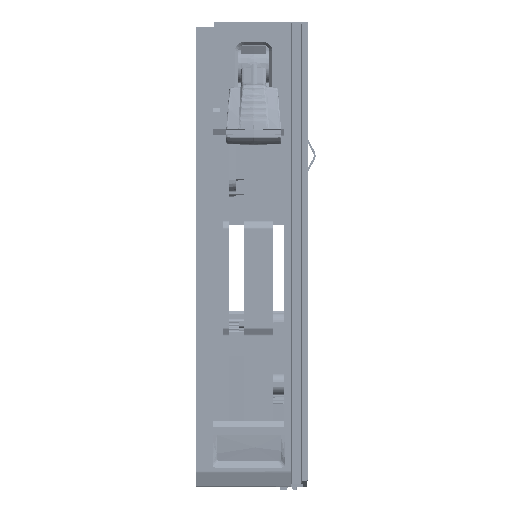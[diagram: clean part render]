
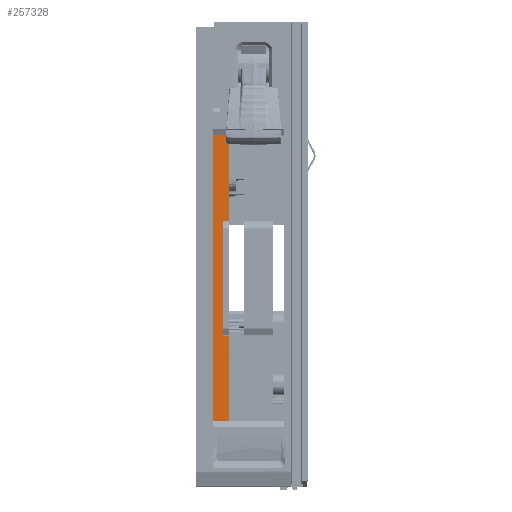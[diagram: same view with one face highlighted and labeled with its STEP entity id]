
A CAD part, top view. The second image highlights one B-rep face of the part: STEP entity #257328.
In plain terms, the highlighted planar face has unit normal (0, 0, 1).
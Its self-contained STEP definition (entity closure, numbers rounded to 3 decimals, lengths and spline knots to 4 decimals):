
#67568=DIRECTION('',(0.,1.,0.));
#67569=VECTOR('',#67568,0.5419);
#67570=CARTESIAN_POINT('',(1.061,0.3821,
4.3307));
#67571=LINE('',#67570,#67569);
#67600=DIRECTION('',(0.,1.,0.));
#67601=VECTOR('',#67600,0.5419);
#67602=CARTESIAN_POINT('',(1.061,1.6514,4.3307));
#67603=LINE('',#67602,#67601);
#67744=DIRECTION('',(-1.,0.,0.));
#67745=VECTOR('',#67744,0.1063);
#67746=CARTESIAN_POINT('',(1.061,2.1933,4.3307));
#67747=LINE('',#67746,#67745);
#67760=DIRECTION('',(0.,1.,0.));
#67761=VECTOR('',#67760,1.8111);
#67762=CARTESIAN_POINT('',(0.9547,0.3821,
4.3307));
#67763=LINE('',#67762,#67761);
#67764=DIRECTION('',(0.,-1.,0.));
#67765=VECTOR('',#67764,0.7274);
#67766=CARTESIAN_POINT('',(1.0217,1.6514,4.3307));
#67767=LINE('',#67766,#67765);
#67784=DIRECTION('',(1.,0.,0.));
#67785=VECTOR('',#67784,0.1063);
#67786=CARTESIAN_POINT('',(0.9547,0.3821,
4.3307));
#67787=LINE('',#67786,#67785);
#72384=DIRECTION('',(1.,0.,0.));
#72385=VECTOR('',#72384,0.0394);
#72386=CARTESIAN_POINT('',(1.0217,1.6514,4.3307));
#72387=LINE('',#72386,#72385);
#72440=DIRECTION('',(-1.,0.,0.));
#72441=VECTOR('',#72440,0.0394);
#72442=CARTESIAN_POINT('',(1.061,0.924,
4.3307));
#72443=LINE('',#72442,#72441);
#134807=CARTESIAN_POINT('',(1.061,0.3821,
4.3307));
#134808=VERTEX_POINT('',#134807);
#134809=CARTESIAN_POINT('',(1.061,0.924,
4.3307));
#134810=VERTEX_POINT('',#134809);
#134823=CARTESIAN_POINT('',(1.061,1.6514,
4.3307));
#134824=VERTEX_POINT('',#134823);
#134825=CARTESIAN_POINT('',(1.061,2.1933,
4.3307));
#134826=VERTEX_POINT('',#134825);
#134835=CARTESIAN_POINT('',(0.9547,0.3821,
4.3307));
#134836=VERTEX_POINT('',#134835);
#134837=CARTESIAN_POINT('',(0.9547,2.1933,
4.3307));
#134838=VERTEX_POINT('',#134837);
#134843=CARTESIAN_POINT('',(1.0217,1.6514,
4.3307));
#134844=VERTEX_POINT('',#134843);
#134845=CARTESIAN_POINT('',(1.0217,0.924,
4.3307));
#134846=VERTEX_POINT('',#134845);
#257308=CARTESIAN_POINT('',(0.9783,1.2877,
4.3307));
#257309=DIRECTION('',(0.,0.,1.));
#257310=DIRECTION('',(0.,-1.,0.));
#257311=AXIS2_PLACEMENT_3D('',#257308,#257309,#257310);
#257312=PLANE('',#257311);
#257314=ORIENTED_EDGE('',*,*,#257313,.F.);
#257316=ORIENTED_EDGE('',*,*,#257315,.T.);
#257317=ORIENTED_EDGE('',*,*,#257288,.F.);
#257318=ORIENTED_EDGE('',*,*,#257087,.F.);
#257320=ORIENTED_EDGE('',*,*,#257319,.F.);
#257322=ORIENTED_EDGE('',*,*,#257321,.T.);
#257324=ORIENTED_EDGE('',*,*,#257323,.F.);
#257325=ORIENTED_EDGE('',*,*,#257071,.F.);
#257326=EDGE_LOOP('',(#257314,#257316,#257317,#257318,#257320,#257322,#257324,
#257325));
#257327=FACE_OUTER_BOUND('',#257326,.F.);
#257071=EDGE_CURVE('',#134808,#134810,#67571,.T.);
#257087=EDGE_CURVE('',#134824,#134826,#67603,.T.);
#257288=EDGE_CURVE('',#134826,#134838,#67747,.T.);
#257313=EDGE_CURVE('',#134836,#134808,#67787,.T.);
#257315=EDGE_CURVE('',#134836,#134838,#67763,.T.);
#257319=EDGE_CURVE('',#134844,#134824,#72387,.T.);
#257321=EDGE_CURVE('',#134844,#134846,#67767,.T.);
#257323=EDGE_CURVE('',#134810,#134846,#72443,.T.);
#257328=ADVANCED_FACE('',(#257327),#257312,.T.);
